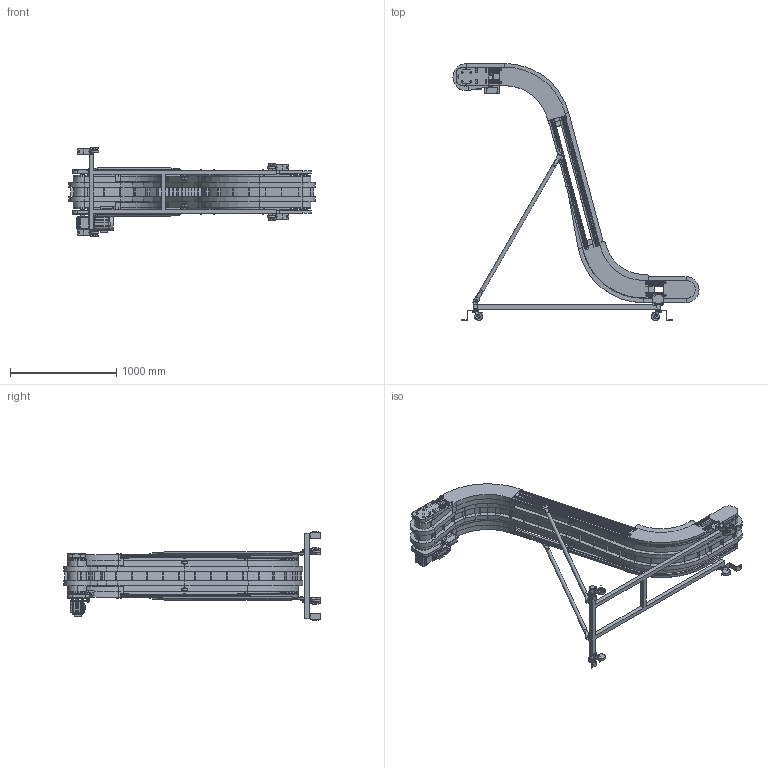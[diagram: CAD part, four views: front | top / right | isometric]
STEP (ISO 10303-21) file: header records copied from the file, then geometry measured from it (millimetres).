
FILE_DESCRIPTION( (''), '2;1');
FILE_NAME ('SMMX3-A-340-300-200-75°-K-80.stp','2025-02-17T14:58:43',(''),(''),'spGate 20.6.2 (****-****-****-****)','','');
FILE_SCHEMA (('AUTOMOTIVE_DESIGN'));
Length unit declared in the file: millimetre
Products named in the file (48): NewModel; TEMP_X_T-prt0; TEMP_X_T-prt1; TEMP_X_T-prt2; TEMP_X_T-prt3; TEMP_X_T-prt4; TEMP_X_T-prt5; TEMP_X_T-prt6; TEMP_X_T-prt7; TEMP_X_T-prt8; TEMP_X_T-prt9; TEMP_X_T-prt10; TEMP_X_T-prt11; TEMP_X_T-prt12; TEMP_X_T-prt13; TEMP_X_T-prt14; TEMP_X_T-prt15; TEMP_X_T-prt16; TEMP_X_T-prt17; TEMP_X_T-prt18; TEMP_X_T-prt19; TEMP_X_T-prt20; TEMP_X_T-prt21; TEMP_X_T-prt22; TEMP_X_T-prt23; TEMP_X_T-prt24; TEMP_X_T-prt25; TEMP_X_T-prt26; TEMP_X_T-prt27; TEMP_X_T-prt28; TEMP_X_T-prt29; TEMP_X_T-prt30; TEMP_X_T-prt31; TEMP_X_T-prt32; TEMP_X_T-prt33; TEMP_X_T-prt34; TEMP_X_T-prt35; TEMP_X_T-prt36; TEMP_X_T-prt37; TEMP_X_T-prt38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
Assembly tree (47 placements, depth 2):
  NewModel
    TEMP_X_T-prt0
    TEMP_X_T-prt1
    TEMP_X_T-prt2
    TEMP_X_T-prt3
    TEMP_X_T-prt4
    TEMP_X_T-prt5
    TEMP_X_T-prt6
    TEMP_X_T-prt7
    TEMP_X_T-prt8
    TEMP_X_T-prt9
    TEMP_X_T-prt10
    TEMP_X_T-prt11
    TEMP_X_T-prt12
    TEMP_X_T-prt13
    TEMP_X_T-prt14
    TEMP_X_T-prt15
    TEMP_X_T-prt16
    TEMP_X_T-prt17
    TEMP_X_T-prt18
    TEMP_X_T-prt19
    TEMP_X_T-prt20
    TEMP_X_T-prt21
    TEMP_X_T-prt22
    TEMP_X_T-prt23
    TEMP_X_T-prt24
    TEMP_X_T-prt25
    TEMP_X_T-prt26
    TEMP_X_T-prt27
    TEMP_X_T-prt28
    TEMP_X_T-prt29
    TEMP_X_T-prt30
    TEMP_X_T-prt31
    TEMP_X_T-prt32
    TEMP_X_T-prt33
    TEMP_X_T-prt34
    TEMP_X_T-prt35
    TEMP_X_T-prt36
    TEMP_X_T-prt37
    TEMP_X_T-prt38
    TEMP_X_T-prt39
    TEMP_X_T-prt40
    TEMP_X_T-prt41
    TEMP_X_T-prt42
    TEMP_X_T-prt43
    TEMP_X_T-prt44
    TEMP_X_T-prt45
    TEMP_X_T-prt46
Bounding box: 2310.57 x 2411.58 x 830 mm (x, y, z)
Volume: 95943767.1 mm3; surface area: 14122776 mm2
Topology: 47 solids, 47 shells, 2834 faces, 7118 edges, 4607 vertices
Faces by surface type: plane 2281, cylinder 499, bspline 54
Entity records: 143498 total; most frequent: CARTESIAN_POINT 16321, ORIENTED_EDGE 14236, DIRECTION 13654, COLOUR_RGB 9999, PRESENTATION_STYLE_ASSIGNMENT 9999, STYLED_ITEM 9999, EDGE_CURVE 7118, DRAUGHTING_PRE_DEFINED_CURVE_FONT 7118
